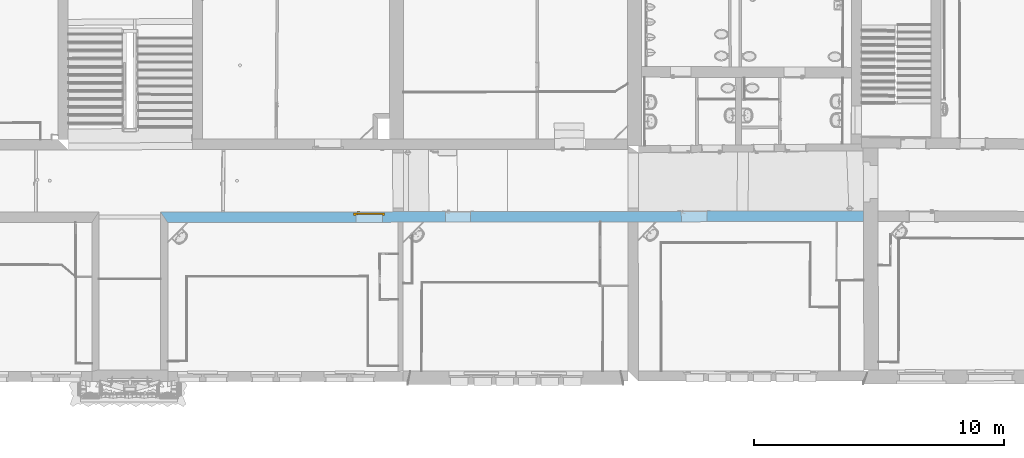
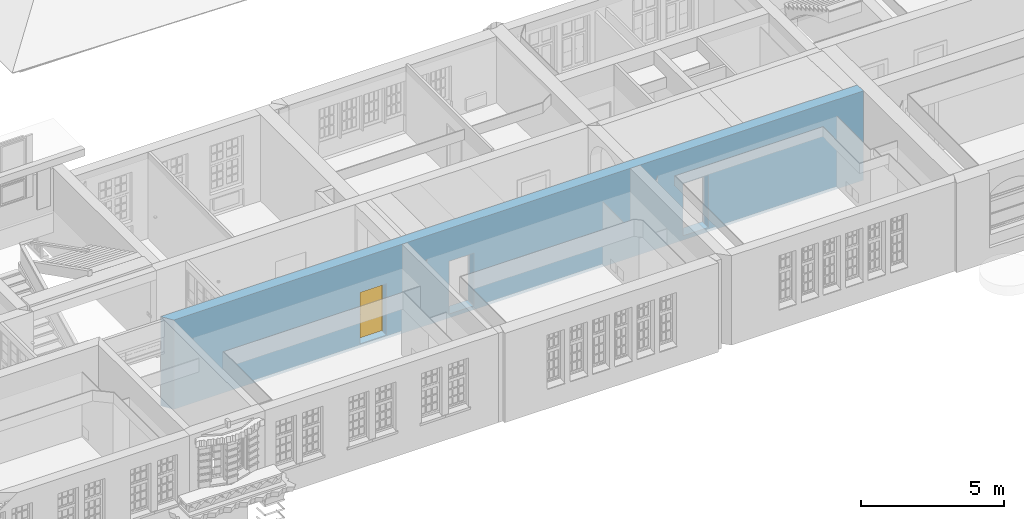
# One storey, part 79 of 158: 1 door, 3 openings, plus 1 element that does not belong to this part.
"""IFC2X3 building model written with IfcOpenShell, lengths in metres."""

from ifc_helpers import new_model, entity, si_unit, converted_unit, derived_unit, money_unit, direction, frame, origin_with_axes, origin_2d_with_axis, place, context, subcontext, project, spatial, polyline, rectangle, outline, extrude, faceted_brep, material, layer, layer_set, layer_usage, type_object, element, fill, save


model = new_model("IFC2X3")

# Units and contexts
model_context = context("Model", 3, precision=1e-05, world=origin_with_axes(), true_north=direction((0.0, 1.0)))
body_context = subcontext(model_context, "Body", "Model", "MODEL_VIEW")
ifc_project = project(units=[si_unit("LENGTHUNIT", "METRE"), si_unit("AREAUNIT", "SQUARE_METRE"), si_unit("VOLUMEUNIT", "CUBIC_METRE"), converted_unit("PLANEANGLEUNIT", "DEGREE", entity("IfcPlaneAngleMeasure", 0.0174532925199), si_unit("PLANEANGLEUNIT", "RADIAN"), dimensions=[0, 0, 0, 0, 0, 0, 0]), money_unit("EUR"), converted_unit("TIMEUNIT", "Year", entity("IfcTimeMeasure", 31556926.0), si_unit("TIMEUNIT", "SECOND"), dimensions=[0, 0, 1, 0, 0, 0, 0]), si_unit("MASSUNIT", "GRAM", prefix="KILO"), si_unit("THERMODYNAMICTEMPERATUREUNIT", "DEGREE_CELSIUS"), si_unit("LUMINOUSINTENSITYUNIT", "LUMEN"), si_unit("ENERGYUNIT", "JOULE", prefix="MEGA"), derived_unit("THERMALCONDUCTANCEUNIT", [(si_unit("POWERUNIT", "WATT"), 1), (si_unit("LENGTHUNIT", "METRE"), -1), (si_unit("THERMODYNAMICTEMPERATUREUNIT", "KELVIN"), -1)]), derived_unit("SPECIFICHEATCAPACITYUNIT", [(si_unit("ENERGYUNIT", "JOULE"), 1), (si_unit("MASSUNIT", "GRAM", prefix="KILO"), -1), (si_unit("THERMODYNAMICTEMPERATUREUNIT", "KELVIN"), -1)]), derived_unit("MASSDENSITYUNIT", [(si_unit("MASSUNIT", "GRAM", prefix="KILO"), 1), (si_unit("VOLUMEUNIT", "CUBIC_METRE"), -1)])], contexts=[model_context])

# Site, building, storey
site_placement = place(None, origin_with_axes())
site = spatial("IfcSite", under=ifc_project, at=site_placement, Name="Gelände", CompositionType="ELEMENT")
building_placement = place(site_placement, origin_with_axes())
building = spatial("IfcBuilding", under=site, at=building_placement, Name="Gebäude", CompositionType="ELEMENT")
storey_placement = place(building_placement, origin_with_axes())
storey = spatial("IfcBuildingStorey", under=building, at=storey_placement, Name="ERDGESCHOSS", CompositionType="ELEMENT", Elevation=0.0)

# Wall, openings, door
ifc_material = material(Name="05_ALLGEMEIN - TRAGENDE BAUTEILE")
ifc_layer = layer(ifc_material, 0.42, ventilated="UNKNOWN")
ifc_layer_set = layer_set([ifc_layer], Name="05_ALLGEMEIN - TRAGENDE BAUTEILE 0.42")
ifc_layer_usage = layer_usage(ifc_layer_set, "AXIS2", "NEGATIVE", 0.42)
wall_type = type_object("IfcWallType", Name="05_ALLGEMEIN - TRAGENDE BAUTEILE 420", PredefinedType="ELEMENTEDWALL")
wall_placement = place(storey_placement, frame((21.9714720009, 16.8199423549, -0.21), z_axis=(0.0, 0.0, 1.0), x_axis=(-0.999998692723, -0.00161695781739, 0.0)))
wall = element("IfcWallStandardCase", 1, at=wall_placement, inside=storey, type_object=wall_type, material=ifc_layer_usage, Name="Wand-036", ObjectType="ELEMENTEDWALL", context=body_context, shape_type="SweptSolid", body=[
    extrude(outline(polyline([(0.0, 0.0), (28.1196278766, 0.0), (27.8302322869, 0.42), (-0.000643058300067, 0.42), (0.0, 0.0)])), origin_with_axes(), (0.0, 0.0, 1.0), 3.81),
])
opening_1_placement = place(wall_placement, frame((16.2172151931, 0.0, 0.166246), z_axis=(0.0, 0.0, 1.0), x_axis=(1.0, 0.0, 0.0)))
element("IfcOpeningElement", 2, at=opening_1_placement, cuts=wall, Name="Tür-022", context=body_context, shape_type="SweptSolid", body=[
    extrude(rectangle(XDim=1.00454069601, YDim=2.250558, at=origin_2d_with_axis()), frame((0.0, -0.42, 1.125279), z_axis=(0.0, 1.0, 0.0), x_axis=(-1.0, 0.0, 0.0)), (0.0, 0.0, 1.0), 1.26),
])
opening_2_placement = place(wall_placement, frame((6.77188532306, 0.0, 0.188019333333), z_axis=(0.0, 0.0, 1.0), x_axis=(1.0, 0.0, 0.0)))
element("IfcOpeningElement", 3, at=opening_2_placement, cuts=wall, Name="Tür-022", context=body_context, shape_type="SweptSolid", body=[
    extrude(rectangle(XDim=1.03194822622, YDim=2.22878466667, at=origin_2d_with_axis()), frame((0.0, -0.42, 1.11439233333), z_axis=(0.0, 1.0, 0.0), x_axis=(-1.0, 0.0, 0.0)), (0.0, 0.0, 1.0), 1.26),
])
opening_3_placement = place(wall_placement, frame((19.7783409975, 0.0, 0.156249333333), z_axis=(0.0, 0.0, 1.0), x_axis=(1.0, 0.0, 0.0)))
opening_3 = element("IfcOpeningElement", 4, at=opening_3_placement, cuts=wall, Name="Tür-022", context=body_context, shape_type="SweptSolid", body=[
    extrude(rectangle(XDim=1.05907517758, YDim=2.193751, at=origin_2d_with_axis()), frame((0.0, 0.14, 1.0968755), z_axis=(0.0, -1.0, 0.0), x_axis=(-1.0, 0.0, 0.0)), (0.0, 0.0, -1.0), 0.7),
    extrude(rectangle(XDim=1.23907517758, YDim=2.283751, at=origin_2d_with_axis()), frame((0.0, 0.05, 1.1418755), z_axis=(0.0, 1.0, 0.0), x_axis=(-1.0, 0.0, 0.0)), (0.0, 0.0, 1.0), 0.09),
    extrude(rectangle(XDim=1.23907517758, YDim=2.283751, at=origin_2d_with_axis()), frame((0.0, 0.05, 1.1418755), z_axis=(0.0, 1.0, 0.0), x_axis=(-1.0, 0.0, 0.0)), (0.0, 0.0, -1.0), 0.47),
])
door_style = type_object("IfcDoorStyle", Name="Blockrahmentür 1-Fl 25", ConstructionType="NOTDEFINED", OperationType="SINGLE_SWING_RIGHT", ParameterTakesPrecedence=False, Sizeable=False)
door_placement = place(opening_3_placement, frame((0.529537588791, 0.0, 0.0), z_axis=(0.0, 0.0, 1.0), x_axis=(-1.0, 0.0, 0.0)))
door = element("IfcDoor", 5, at=door_placement, inside=storey, type_object=door_style, Name="Tür-022", ObjectType="NOTDEFINED", OverallHeight=2.28375, OverallWidth=1.23908, context=body_context, shape_type="Brep", body=[
    faceted_brep([(1.14907517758, -0.14, 0.0), (1.14907517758, -0.1, 0.0), (1.14907517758, -0.1, 2.283751), (1.14907517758, -0.14, 2.283751), (1.05907517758, -0.14, 0.0), (1.05907517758, -0.1, 0.0), (1.05907517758, -0.1, 2.193751), (0.641637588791, -0.1, 2.193751), (0.529637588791, -0.1, 2.193751), (0.0, -0.1, 2.193751), (0.0, -0.1, 0.0), (-0.09, -0.1, 0.0), (-0.09, -0.1, 2.283751), (-0.09, -0.14, 2.283751), (-0.09, -0.14, 0.0), (0.0, -0.14, 0.0), (0.0, -0.14, 2.193751), (0.529637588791, -0.14, 2.193751), (0.641637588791, -0.14, 2.193751), (1.05907517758, -0.14, 2.193751)], [[[0, 1, 2, 3]], [[4, 5, 1, 0]], [[1, 5, 6, 7, 8, 9, 10, 11, 12, 2]], [[3, 2, 12, 13]], [[0, 3, 13, 14, 15, 16, 17, 18, 19, 4]], [[19, 6, 5, 4]], [[18, 7, 6, 19]], [[17, 8, 7, 18]], [[16, 9, 8, 17]], [[15, 10, 9, 16]], [[14, 11, 10, 15]], [[13, 12, 11, 14]]]),
    faceted_brep([(1.14907517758, -0.1, 0.0), (1.14907517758, -0.05, 0.0), (1.14907517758, -0.05, 2.283751), (1.14907517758, -0.1, 2.283751), (1.07107517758, -0.1, 0.0), (1.07107517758, -0.05, 0.0), (1.07107517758, -0.05, 2.205751), (0.629637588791, -0.05, 2.205751), (0.541637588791, -0.05, 2.205751), (-0.012, -0.05, 2.205751), (-0.012, -0.05, 0.0), (-0.09, -0.05, 0.0), (-0.09, -0.05, 2.283751), (-0.09, -0.1, 2.283751), (-0.09, -0.1, 0.0), (-0.012, -0.1, 0.0), (-0.012, -0.1, 2.205751), (0.541637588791, -0.1, 2.205751), (0.629637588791, -0.1, 2.205751), (1.07107517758, -0.1, 2.205751)], [[[0, 1, 2, 3]], [[4, 5, 1, 0]], [[1, 5, 6, 7, 8, 9, 10, 11, 12, 2]], [[3, 2, 12, 13]], [[0, 3, 13, 14, 15, 16, 17, 18, 19, 4]], [[19, 6, 5, 4]], [[18, 7, 6, 19]], [[17, 8, 7, 18]], [[16, 9, 8, 17]], [[15, 10, 9, 16]], [[14, 11, 10, 15]], [[13, 12, 11, 14]]]),
    faceted_brep([(1.07107517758, -0.052, 0.0), (-0.012, -0.052, 0.0), (-0.012, -0.052, 2.205751), (1.07107517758, -0.052, 2.205751), (1.07107517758, -0.1, 0.0), (-0.012, -0.1, 0.0), (-0.012, -0.1, 2.205751), (1.07107517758, -0.1, 2.205751)], [[[0, 1, 2, 3]], [[1, 0, 4, 5]], [[2, 1, 5, 6]], [[3, 2, 6, 7]], [[0, 3, 7, 4]], [[5, 4, 7, 6]]]),
    faceted_brep([(0.0432977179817, -0.14, 1.05647213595), (0.048, -0.14, 1.058), (0.048, -0.12, 1.058), (0.0432977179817, -0.12, 1.05647213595), (0.0403915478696, -0.14, 1.05247213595), (0.0403915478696, -0.14, 1.04752786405), (0.0432977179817, -0.14, 1.04352786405), (0.048, -0.14, 1.042), (0.0527022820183, -0.14, 1.04352786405), (0.0556084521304, -0.14, 1.04752786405), (0.0556084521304, -0.14, 1.05247213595), (0.0527022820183, -0.14, 1.05647213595), (0.0527022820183, -0.12, 1.05647213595), (0.048, -0.118, 1.06), (0.0421221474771, -0.118, 1.05809016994), (0.0403915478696, -0.12, 1.05247213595), (0.0403915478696, -0.12, 1.04752786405), (0.0432977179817, -0.12, 1.04352786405), (0.048, -0.12, 1.042), (0.0527022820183, -0.12, 1.04352786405), (0.0556084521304, -0.12, 1.04752786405), (0.0556084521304, -0.12, 1.05247213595), (0.0538778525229, -0.118, 1.05809016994), (0.048, -0.11, 1.06), (0.0421221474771, -0.11, 1.05809016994), (0.038489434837, -0.118, 1.05309016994), (0.038489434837, -0.118, 1.04690983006), (0.0421221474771, -0.118, 1.04190983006), (0.048, -0.118, 1.04), (0.0538778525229, -0.118, 1.04190983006), (0.057510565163, -0.118, 1.04690983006), (0.057510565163, -0.118, 1.05309016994), (0.0538778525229, -0.11, 1.05809016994), (0.057510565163, -0.11, 1.05309016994), (0.057510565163, -0.11, 1.04690983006), (0.0538778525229, -0.11, 1.04190983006), (0.048, -0.11, 1.04), (0.0421221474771, -0.11, 1.04190983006), (0.038489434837, -0.11, 1.04690983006), (0.038489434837, -0.11, 1.05309016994)], [[[0, 1, 2, 3]], [[1, 0, 4, 5, 6, 7, 8, 9, 10, 11]], [[1, 11, 12, 2]], [[3, 2, 13, 14]], [[4, 0, 3, 15]], [[5, 4, 15, 16]], [[6, 5, 16, 17]], [[7, 6, 17, 18]], [[8, 7, 18, 19]], [[9, 8, 19, 20]], [[10, 9, 20, 21]], [[11, 10, 21, 12]], [[2, 12, 22, 13]], [[14, 13, 23, 24]], [[15, 3, 14, 25]], [[16, 15, 25, 26]], [[17, 16, 26, 27]], [[18, 17, 27, 28]], [[19, 18, 28, 29]], [[20, 19, 29, 30]], [[21, 20, 30, 31]], [[12, 21, 31, 22]], [[13, 22, 32, 23]], [[23, 32, 33, 34, 35, 36, 37, 38, 39, 24]], [[25, 14, 24, 39]], [[26, 25, 39, 38]], [[27, 26, 38, 37]], [[28, 27, 37, 36]], [[29, 28, 36, 35]], [[30, 29, 35, 34]], [[31, 30, 34, 33]], [[22, 31, 33, 32]]]),
    faceted_brep([(0.0601883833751, -0.11, 1.11759695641), (0.0524435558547, -0.11, 1.12195567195), (0.0435564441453, -0.11, 1.12195567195), (0.0358116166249, -0.11, 1.11759695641), (0.0312, -0.11, 1.11), (0.0255, -0.11, 1.11), (0.0255, -0.11, 0.89), (0.0312, -0.11, 0.89), (0.0358116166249, -0.11, 0.882403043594), (0.0435564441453, -0.11, 0.878044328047), (0.0524435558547, -0.11, 0.878044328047), (0.0601883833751, -0.11, 0.882403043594), (0.0648, -0.11, 0.89), (0.0705, -0.11, 0.89), (0.0705, -0.11, 1.11), (0.0648, -0.11, 1.11), (0.048, -0.11, 0.967425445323), (0.053375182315, -0.11, 0.965143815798), (0.0554678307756, -0.11, 0.959692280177), (0.053, -0.11, 0.9544), (0.053, -0.11, 0.9375), (0.0515355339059, -0.11, 0.933964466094), (0.048, -0.11, 0.9325), (0.0444644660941, -0.11, 0.933964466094), (0.043, -0.11, 0.9375), (0.043, -0.11, 0.9544), (0.0405321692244, -0.11, 0.959692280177), (0.042624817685, -0.11, 0.965143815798), (0.0601883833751, -0.1, 1.11759695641), (0.0524435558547, -0.1, 1.12195567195), (0.0435564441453, -0.1, 1.12195567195), (0.0358116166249, -0.1, 1.11759695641), (0.0312, -0.1, 1.11), (0.0255, -0.1, 1.11), (0.0255, -0.1, 0.89), (0.0312, -0.1, 0.89), (0.0358116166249, -0.1, 0.882403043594), (0.0435564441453, -0.1, 0.878044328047), (0.0524435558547, -0.1, 0.878044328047), (0.0601883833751, -0.1, 0.882403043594), (0.0648, -0.1, 0.89), (0.0705, -0.1, 0.89), (0.0705, -0.1, 1.11), (0.0648, -0.1, 1.11), (0.048, -0.1, 0.967425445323), (0.053375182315, -0.1, 0.965143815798), (0.0554678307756, -0.1, 0.959692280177), (0.053, -0.1, 0.9544), (0.053, -0.1, 0.9375), (0.0515355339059, -0.1, 0.933964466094), (0.048, -0.1, 0.9325), (0.0444644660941, -0.1, 0.933964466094), (0.043, -0.1, 0.9375), (0.043, -0.1, 0.9544), (0.0405321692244, -0.1, 0.959692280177), (0.042624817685, -0.1, 0.965143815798)], [[[0, 1, 2, 3, 4, 5, 6, 7, 8, 9, 10, 11, 12, 13, 14, 15], [16, 17, 18, 19, 20, 21, 22, 23, 24, 25, 26, 27]], [[1, 0, 28, 29]], [[2, 1, 29, 30]], [[3, 2, 30, 31]], [[4, 3, 31, 32]], [[5, 4, 32, 33]], [[6, 5, 33, 34]], [[7, 6, 34, 35]], [[8, 7, 35, 36]], [[9, 8, 36, 37]], [[10, 9, 37, 38]], [[11, 10, 38, 39]], [[12, 11, 39, 40]], [[13, 12, 40, 41]], [[14, 13, 41, 42]], [[15, 14, 42, 43]], [[0, 15, 43, 28]], [[17, 16, 44, 45]], [[18, 17, 45, 46]], [[19, 18, 46, 47]], [[19, 47, 48, 20]], [[20, 48, 49, 21]], [[21, 49, 50, 22]], [[22, 50, 51, 23]], [[23, 51, 52, 24]], [[53, 25, 24, 52]], [[26, 25, 53, 54]], [[27, 26, 54, 55]], [[16, 27, 55, 44]], [[40, 39, 38, 37, 36, 35, 34, 33, 32, 31, 30, 29, 28, 43, 42, 41], [54, 53, 52, 51, 50, 49, 48, 47, 46, 45, 44, 55]]]),
    faceted_brep([(0.162253, -0.14, 1.057158), (0.162253, -0.155, 1.057158), (0.162254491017, -0.155, 1.05719388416), (0.162254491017, -0.14, 1.05719388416), (0.135225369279, -0.14, 1.06432652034), (0.135225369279, -0.155, 1.06432652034), (0.107397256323, -0.155, 1.06706086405), (0.0794912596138, -0.155, 1.06529002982), (0.052232, -0.155, 1.05906), (0.0458294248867, -0.155, 1.05976125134), (0.0403273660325, -0.155, 1.05641280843), (0.0380084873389, -0.155, 1.05040385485), (0.0398348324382, -0.155, 1.04422735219), (0.0450486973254, -0.155, 1.04044577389), (0.0514869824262, -0.155, 1.04062800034), (0.0564786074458, -0.155, 1.04469843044), (0.056458, -0.155, 1.044666), (0.0817467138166, -0.155, 1.05019878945), (0.107589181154, -0.155, 1.05171460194), (0.133351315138, -0.155, 1.04917624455), (0.158401, -0.155, 1.042646), (0.163944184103, -0.155, 1.04356849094), (0.16730572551, -0.155, 1.04807159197), (0.166614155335, -0.155, 1.05364829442), (0.166614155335, -0.14, 1.05364829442), (0.16730572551, -0.14, 1.04807159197), (0.163944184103, -0.14, 1.04356849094), (0.158401, -0.14, 1.042646), (0.133351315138, -0.14, 1.04917624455), (0.107589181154, -0.14, 1.05171460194), (0.0817467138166, -0.14, 1.05019878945), (0.056458, -0.14, 1.044666), (0.0564786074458, -0.14, 1.04469843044), (0.0514869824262, -0.14, 1.04062800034), (0.0450486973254, -0.14, 1.04044577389), (0.0398348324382, -0.14, 1.04422735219), (0.0380084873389, -0.14, 1.05040385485), (0.0403273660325, -0.14, 1.05641280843), (0.0458294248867, -0.14, 1.05976125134), (0.052232, -0.14, 1.05906), (0.0794912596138, -0.14, 1.06529002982), (0.107397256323, -0.14, 1.06706086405)], [[[0, 1, 2, 3]], [[4, 5, 1, 0]], [[1, 5, 6, 7, 8, 9, 10, 11, 12, 13, 14, 15, 16, 17, 18, 19, 20, 21, 22, 23, 2]], [[3, 2, 23, 24]], [[0, 3, 24, 25, 26, 27, 28, 29, 30, 31, 32, 33, 34, 35, 36, 37, 38, 39, 40, 41, 4]], [[41, 6, 5, 4]], [[40, 7, 6, 41]], [[39, 8, 7, 40]], [[38, 9, 8, 39]], [[37, 10, 9, 38]], [[36, 11, 10, 37]], [[35, 12, 11, 36]], [[34, 13, 12, 35]], [[33, 14, 13, 34]], [[32, 15, 14, 33]], [[31, 16, 15, 32]], [[30, 17, 16, 31]], [[29, 18, 17, 30]], [[28, 19, 18, 29]], [[27, 20, 19, 28]], [[26, 21, 20, 27]], [[25, 22, 21, 26]], [[24, 23, 22, 25]]]),
    faceted_brep([(0.0432977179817, -0.012, 1.05647213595), (0.0432977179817, -0.032, 1.05647213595), (0.048, -0.032, 1.058), (0.048, -0.012, 1.058), (0.0403915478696, -0.012, 1.05247213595), (0.0403915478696, -0.032, 1.05247213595), (0.0421221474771, -0.034, 1.05809016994), (0.048, -0.034, 1.06), (0.0527022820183, -0.032, 1.05647213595), (0.0527022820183, -0.012, 1.05647213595), (0.0556084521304, -0.012, 1.05247213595), (0.0556084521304, -0.012, 1.04752786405), (0.0527022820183, -0.012, 1.04352786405), (0.048, -0.012, 1.042), (0.0432977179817, -0.012, 1.04352786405), (0.0403915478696, -0.012, 1.04752786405), (0.0403915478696, -0.032, 1.04752786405), (0.038489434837, -0.034, 1.05309016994), (0.0421221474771, -0.042, 1.05809016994), (0.048, -0.042, 1.06), (0.0538778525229, -0.034, 1.05809016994), (0.0556084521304, -0.032, 1.05247213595), (0.0556084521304, -0.032, 1.04752786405), (0.0527022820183, -0.032, 1.04352786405), (0.048, -0.032, 1.042), (0.0432977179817, -0.032, 1.04352786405), (0.038489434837, -0.034, 1.04690983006), (0.038489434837, -0.042, 1.05309016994), (0.038489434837, -0.042, 1.04690983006), (0.0421221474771, -0.042, 1.04190983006), (0.048, -0.042, 1.04), (0.0538778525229, -0.042, 1.04190983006), (0.057510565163, -0.042, 1.04690983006), (0.057510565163, -0.042, 1.05309016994), (0.0538778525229, -0.042, 1.05809016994), (0.057510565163, -0.034, 1.05309016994), (0.057510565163, -0.034, 1.04690983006), (0.0538778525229, -0.034, 1.04190983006), (0.048, -0.034, 1.04), (0.0421221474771, -0.034, 1.04190983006)], [[[0, 1, 2, 3]], [[4, 5, 1, 0]], [[1, 6, 7, 2]], [[3, 2, 8, 9]], [[3, 9, 10, 11, 12, 13, 14, 15, 4, 0]], [[15, 16, 5, 4]], [[5, 17, 6, 1]], [[6, 18, 19, 7]], [[2, 7, 20, 8]], [[9, 8, 21, 10]], [[10, 21, 22, 11]], [[11, 22, 23, 12]], [[12, 23, 24, 13]], [[13, 24, 25, 14]], [[14, 25, 16, 15]], [[16, 26, 17, 5]], [[17, 27, 18, 6]], [[19, 18, 27, 28, 29, 30, 31, 32, 33, 34]], [[7, 19, 34, 20]], [[8, 20, 35, 21]], [[21, 35, 36, 22]], [[22, 36, 37, 23]], [[23, 37, 38, 24]], [[24, 38, 39, 25]], [[25, 39, 26, 16]], [[26, 28, 27, 17]], [[39, 29, 28, 26]], [[38, 30, 29, 39]], [[37, 31, 30, 38]], [[36, 32, 31, 37]], [[35, 33, 32, 36]], [[20, 34, 33, 35]]]),
    faceted_brep([(0.0601883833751, -0.052, 1.11759695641), (0.0524435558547, -0.052, 1.12195567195), (0.0435564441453, -0.052, 1.12195567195), (0.0358116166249, -0.052, 1.11759695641), (0.0312, -0.052, 1.11), (0.0255, -0.052, 1.11), (0.0255, -0.052, 0.89), (0.0312, -0.052, 0.89), (0.0358116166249, -0.052, 0.882403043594), (0.0435564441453, -0.052, 0.878044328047), (0.0524435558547, -0.052, 0.878044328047), (0.0601883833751, -0.052, 0.882403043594), (0.0648, -0.052, 0.89), (0.0705, -0.052, 0.89), (0.0705, -0.052, 1.11), (0.0648, -0.052, 1.11), (0.048, -0.052, 0.967425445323), (0.053375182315, -0.052, 0.965143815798), (0.0554678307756, -0.052, 0.959692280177), (0.053, -0.052, 0.9544), (0.053, -0.052, 0.9375), (0.0515355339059, -0.052, 0.933964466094), (0.048, -0.052, 0.9325), (0.0444644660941, -0.052, 0.933964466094), (0.043, -0.052, 0.9375), (0.043, -0.052, 0.9544), (0.0405321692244, -0.052, 0.959692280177), (0.042624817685, -0.052, 0.965143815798), (0.0524435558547, -0.042, 1.12195567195), (0.0601883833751, -0.042, 1.11759695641), (0.0435564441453, -0.042, 1.12195567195), (0.0358116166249, -0.042, 1.11759695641), (0.0312, -0.042, 1.11), (0.0255, -0.042, 1.11), (0.0255, -0.042, 0.89), (0.0312, -0.042, 0.89), (0.0358116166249, -0.042, 0.882403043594), (0.0435564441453, -0.042, 0.878044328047), (0.0524435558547, -0.042, 0.878044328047), (0.0601883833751, -0.042, 0.882403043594), (0.0648, -0.042, 0.89), (0.0705, -0.042, 0.89), (0.0705, -0.042, 1.11), (0.0648, -0.042, 1.11), (0.048, -0.042, 0.967425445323), (0.053375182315, -0.042, 0.965143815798), (0.0554678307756, -0.042, 0.959692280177), (0.053, -0.042, 0.9544), (0.053, -0.042, 0.9375), (0.0515355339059, -0.042, 0.933964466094), (0.048, -0.042, 0.9325), (0.0444644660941, -0.042, 0.933964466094), (0.043, -0.042, 0.9375), (0.043, -0.042, 0.9544), (0.0405321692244, -0.042, 0.959692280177), (0.042624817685, -0.042, 0.965143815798)], [[[0, 1, 2, 3, 4, 5, 6, 7, 8, 9, 10, 11, 12, 13, 14, 15], [16, 17, 18, 19, 20, 21, 22, 23, 24, 25, 26, 27]], [[28, 1, 0, 29]], [[30, 2, 1, 28]], [[31, 3, 2, 30]], [[32, 4, 3, 31]], [[33, 5, 4, 32]], [[34, 6, 5, 33]], [[35, 7, 6, 34]], [[36, 8, 7, 35]], [[37, 9, 8, 36]], [[38, 10, 9, 37]], [[39, 11, 10, 38]], [[40, 12, 11, 39]], [[41, 13, 12, 40]], [[42, 14, 13, 41]], [[43, 15, 14, 42]], [[29, 0, 15, 43]], [[17, 16, 44, 45]], [[18, 17, 45, 46]], [[19, 18, 46, 47]], [[19, 47, 48, 20]], [[20, 48, 49, 21]], [[21, 49, 50, 22]], [[22, 50, 51, 23]], [[23, 51, 52, 24]], [[53, 25, 24, 52]], [[26, 25, 53, 54]], [[27, 26, 54, 55]], [[16, 27, 55, 44]], [[40, 39, 38, 37, 36, 35, 34, 33, 32, 31, 30, 28, 29, 43, 42, 41], [54, 53, 52, 51, 50, 49, 48, 47, 46, 45, 44, 55]]]),
    faceted_brep([(0.162253, -0.012, 1.057158), (0.162254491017, -0.012, 1.05719388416), (0.162254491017, 0.00299999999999, 1.05719388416), (0.162253, 0.003, 1.057158), (0.135225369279, -0.012, 1.06432652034), (0.107397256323, -0.012, 1.06706086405), (0.0794912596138, -0.012, 1.06529002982), (0.052232, -0.012, 1.05906), (0.0458294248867, -0.012, 1.05976125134), (0.0403273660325, -0.012, 1.05641280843), (0.0380084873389, -0.012, 1.05040385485), (0.0398348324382, -0.012, 1.04422735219), (0.0450486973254, -0.012, 1.04044577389), (0.0514869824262, -0.012, 1.04062800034), (0.0564786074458, -0.012, 1.04469843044), (0.056458, -0.012, 1.044666), (0.0817467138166, -0.012, 1.05019878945), (0.107589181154, -0.012, 1.05171460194), (0.133351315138, -0.012, 1.04917624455), (0.158401, -0.012, 1.042646), (0.163944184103, -0.012, 1.04356849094), (0.16730572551, -0.012, 1.04807159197), (0.166614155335, -0.012, 1.05364829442), (0.166614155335, 0.003, 1.05364829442), (0.16730572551, 0.003, 1.04807159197), (0.163944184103, 0.003, 1.04356849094), (0.158401, 0.003, 1.042646), (0.133351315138, 0.003, 1.04917624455), (0.107589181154, 0.003, 1.05171460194), (0.0817467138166, 0.003, 1.05019878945), (0.056458, 0.003, 1.044666), (0.0564786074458, 0.00299999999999, 1.04469843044), (0.0514869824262, 0.003, 1.04062800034), (0.0450486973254, 0.003, 1.04044577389), (0.0398348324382, 0.00299999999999, 1.04422735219), (0.0380084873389, 0.003, 1.05040385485), (0.0403273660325, 0.00299999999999, 1.05641280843), (0.0458294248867, 0.00299999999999, 1.05976125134), (0.052232, 0.003, 1.05906), (0.0794912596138, 0.00299999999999, 1.06529002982), (0.107397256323, 0.003, 1.06706086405), (0.135225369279, 0.00299999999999, 1.06432652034)], [[[0, 1, 2, 3]], [[0, 4, 5, 6, 7, 8, 9, 10, 11, 12, 13, 14, 15, 16, 17, 18, 19, 20, 21, 22, 1]], [[1, 22, 23, 2]], [[3, 2, 23, 24, 25, 26, 27, 28, 29, 30, 31, 32, 33, 34, 35, 36, 37, 38, 39, 40, 41]], [[4, 0, 3, 41]], [[5, 4, 41, 40]], [[6, 5, 40, 39]], [[7, 6, 39, 38]], [[8, 7, 38, 37]], [[9, 8, 37, 36]], [[10, 9, 36, 35]], [[11, 10, 35, 34]], [[12, 11, 34, 33]], [[13, 12, 33, 32]], [[14, 13, 32, 31]], [[15, 14, 31, 30]], [[16, 15, 30, 29]], [[17, 16, 29, 28]], [[18, 17, 28, 27]], [[19, 18, 27, 26]], [[20, 19, 26, 25]], [[21, 20, 25, 24]], [[22, 21, 24, 23]]]),
])
fill(opening_3, door)

save(model, "model.ifc")
